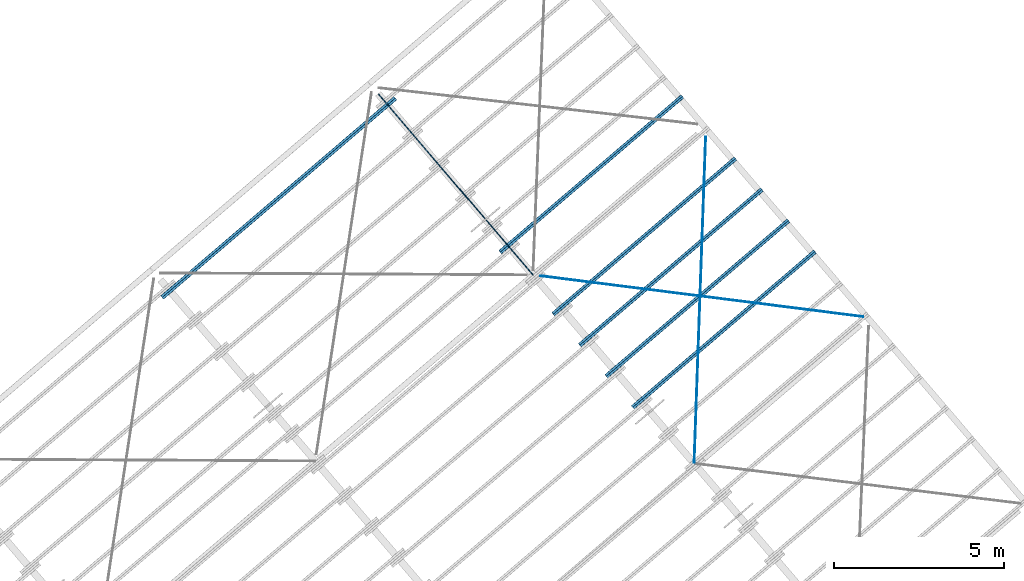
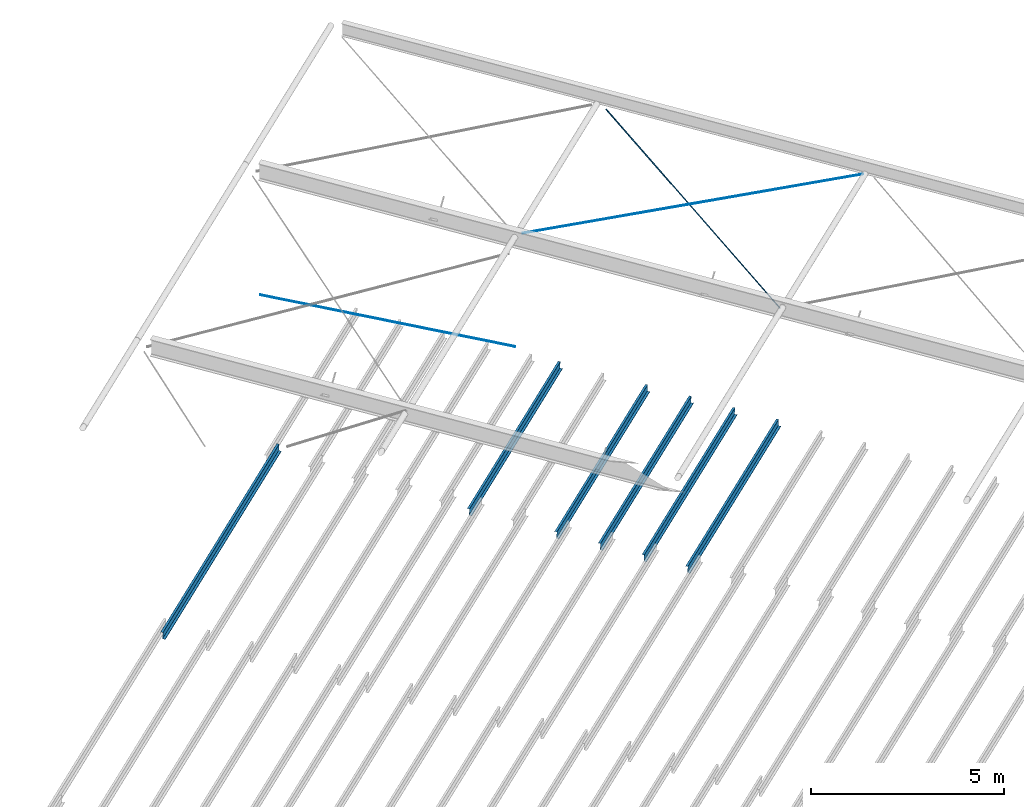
# One storey, part 19 of 25: 9 beams, 2 elements without a shape of their own.
"""IFC2X3 building model written with IfcOpenShell, lengths in millimetres."""

from ifc_helpers import new_model, entity, si_unit, converted_unit, derived_unit, direction, frame, frame_2d, origin, place, context, subcontext, project, spatial, polyline, circle_curve, parameter, trimmed, segment, composite_curve, circle, outline, extrude, material, type_object, element, aggregate, save


model = new_model("IFC2X3")

# Units and contexts
model_context = context("Model", 3, precision=0.01, world=origin(), true_north=direction((6.123031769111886e-17, 1.0)))
body_context = subcontext(model_context, "Body", "Model", "MODEL_VIEW")
ifc_project = project(units=[si_unit("LENGTHUNIT", "METRE", prefix="MILLI"), si_unit("AREAUNIT", "SQUARE_METRE"), si_unit("VOLUMEUNIT", "CUBIC_METRE"), converted_unit("PLANEANGLEUNIT", "DEGREE", entity("IfcRatioMeasure", 0.017453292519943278), si_unit("PLANEANGLEUNIT", "RADIAN"), dimensions=[0, 0, 0, 0, 0, 0, 0]), si_unit("MASSUNIT", "GRAM", prefix="KILO"), derived_unit("MASSDENSITYUNIT", [(si_unit("MASSUNIT", "GRAM", prefix="KILO"), 1), (si_unit("LENGTHUNIT", "METRE"), -3)]), derived_unit("MOMENTOFINERTIAUNIT", [(si_unit("LENGTHUNIT", "METRE"), 4)]), si_unit("TIMEUNIT", "SECOND"), si_unit("FREQUENCYUNIT", "HERTZ"), si_unit("THERMODYNAMICTEMPERATUREUNIT", "DEGREE_CELSIUS"), derived_unit("THERMALTRANSMITTANCEUNIT", [(si_unit("MASSUNIT", "GRAM", prefix="KILO"), 1), (si_unit("THERMODYNAMICTEMPERATUREUNIT", "KELVIN"), -1), (si_unit("TIMEUNIT", "SECOND"), -3)]), derived_unit("VOLUMETRICFLOWRATEUNIT", [(si_unit("LENGTHUNIT", "METRE"), 3), (si_unit("TIMEUNIT", "SECOND"), -1)]), derived_unit("MASSFLOWRATEUNIT", [(si_unit("MASSUNIT", "GRAM", prefix="KILO"), 1), (si_unit("TIMEUNIT", "SECOND"), -1)]), derived_unit("ROTATIONALFREQUENCYUNIT", [(si_unit("TIMEUNIT", "SECOND"), -1)]), si_unit("ELECTRICCURRENTUNIT", "AMPERE"), si_unit("ELECTRICVOLTAGEUNIT", "VOLT"), si_unit("POWERUNIT", "WATT"), si_unit("FORCEUNIT", "NEWTON", prefix="KILO"), si_unit("ILLUMINANCEUNIT", "LUX"), si_unit("LUMINOUSFLUXUNIT", "LUMEN"), si_unit("LUMINOUSINTENSITYUNIT", "CANDELA"), derived_unit("USERDEFINED", [(si_unit("MASSUNIT", "GRAM", prefix="KILO"), -1), (si_unit("LENGTHUNIT", "METRE"), -2), (si_unit("TIMEUNIT", "SECOND"), 3), (si_unit("LUMINOUSFLUXUNIT", "LUMEN"), 1)]), derived_unit("SOUNDPOWERUNIT", [(si_unit("MASSUNIT", "GRAM", prefix="KILO"), 1), (si_unit("LENGTHUNIT", "METRE"), 2), (si_unit("TIMEUNIT", "SECOND"), -3)]), derived_unit("LINEARVELOCITYUNIT", [(si_unit("LENGTHUNIT", "METRE"), 1), (si_unit("TIMEUNIT", "SECOND"), -1)]), si_unit("PRESSUREUNIT", "PASCAL"), derived_unit("USERDEFINED", [(si_unit("LENGTHUNIT", "METRE"), -2), (si_unit("MASSUNIT", "GRAM", prefix="KILO"), 1), (si_unit("TIMEUNIT", "SECOND"), -2)]), derived_unit("LINEARFORCEUNIT", [(si_unit("MASSUNIT", "GRAM", prefix="KILO"), 1), (si_unit("LENGTHUNIT", "METRE"), 1), (si_unit("TIMEUNIT", "SECOND"), -2), (si_unit("LENGTHUNIT", "METRE"), -1)]), derived_unit("PLANARFORCEUNIT", [(si_unit("MASSUNIT", "GRAM", prefix="KILO"), 1), (si_unit("LENGTHUNIT", "METRE"), 1), (si_unit("TIMEUNIT", "SECOND"), -2), (si_unit("LENGTHUNIT", "METRE"), -2)])], contexts=[model_context])

# Site, building, storey
site_placement = place(None, frame((962.4174930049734, -6014.433753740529, 0.0), z_axis=(0.0, 0.0, 1.0), x_axis=(0.7601792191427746, 0.649713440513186, 0.0)))
site = spatial("IfcSite", under=ifc_project, at=site_placement, Name="Default", CompositionType="ELEMENT")
building_placement = place(site_placement, origin())
building = spatial("IfcBuilding", under=site, at=building_placement, CompositionType="ELEMENT")
storey_placement = place(building_placement, frame((0.0, 0.0, 9200.0)))
storey = spatial("IfcBuildingStorey", under=building, at=storey_placement, Name="TOP OF CEILING", CompositionType="ELEMENT", Elevation=9200.000000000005)

# Beams
beam_type_1 = type_object("IfcBeamType", Name="ADSK_AU_Round Bars (AS 3679_1):24ROD", PredefinedType="NOTDEFINED")
beam_1_placement = place(storey_placement, frame((179138.96020471, -11142.80342537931, 2900.0), z_axis=(-0.024651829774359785, -0.02686070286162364, 0.9993351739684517), x_axis=(0.6757149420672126, 0.7362608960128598, 0.036458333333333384)))
element("IfcBeam", 1, at=beam_1_placement, inside=storey, type_object=beam_type_1, Name="ADSK_AU_Round Bars (AS 3679_1):24ROD", ObjectType="ADSK_AU_Round Bars (AS 3679_1):24ROD", context=body_context, shape_type="SweptSolid", body=[
    extrude(circle(Radius=12.000000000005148, at=frame_2d((1.4643925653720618e-12, -8.715350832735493e-12), x_axis=(1.0, 0.0))), frame((24.699999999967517, 0.0, -12.0), z_axis=(1.0, 0.0, 0.0), x_axis=(0.0, -1.0, 0.0)), (0.0, 0.0, 1.0), 9575.300000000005),
])
beam_2_placement = place(storey_placement, frame((185667.08955571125, -11048.079923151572, 2800.0), z_axis=(0.050721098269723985, -0.055789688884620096, 0.9971533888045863), x_axis=(-0.6707811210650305, 0.7378126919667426, 0.0753997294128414)))
element("IfcBeam", 2, at=beam_2_placement, inside=storey, type_object=beam_type_1, Name="ADSK_AU_Round Bars (AS 3679_1):24ROD", ObjectType="ADSK_AU_Round Bars (AS 3679_1):24ROD", context=body_context, shape_type="SweptSolid", body=[
    extrude(circle(Radius=12.00000000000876, at=frame_2d((-3.5178036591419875e-24, -6.478707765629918e-12), x_axis=(1.0, 0.0))), frame((-61.28479184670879, 0.0, -12.0), z_axis=(1.0, 0.0, 0.0), x_axis=(0.0, -1.0, 0.0)), (0.0, 0.0, 1.0), 9570.700000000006),
])
beam_3_placement = place(storey_placement, frame((179138.96020471, -3867.590582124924, 0.0), z_axis=(0.0, 0.0, 1.0), x_axis=(0.0, 1.0, 0.0)))
element("IfcBeam", 3, at=beam_3_placement, inside=storey, type_object=beam_type_1, Name="ADSK_AU_Round Bars (AS 3679_1):24ROD", ObjectType="ADSK_AU_Round Bars (AS 3679_1):24ROD", context=body_context, shape_type="SweptSolid", body=[
    extrude(circle(Radius=11.999999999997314, at=frame_2d((-9.771676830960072e-26, -1.0828671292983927e-12), x_axis=(1.0, 0.0))), frame((0.006249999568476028, 0.0, -12.0), z_axis=(1.0, 0.0, 0.0), x_axis=(0.0, -1.0, 0.0)), (0.0, 0.0, 1.0), 6980.900000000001),
])

# Assembly, beam
assembly_1_placement = place(storey_placement, origin())
assembly_1 = element("IfcElementAssembly", 4, at=assembly_1_placement, inside=storey, Name="Structural Beam System:Structural Beam System 1", ObjectType="Structural Beam System:Structural Beam System 1", AssemblyPlace="NOTDEFINED", PredefinedType="BEAM_GRID")
ifc_material = material(Name="Metal - Light Gauge")
beam_type_2 = type_object("IfcBeamType", Name="ADSK_AU_Light Gauge-Zeds:Z20024", PredefinedType="NOTDEFINED")
beam_4_placement = place(building_placement, frame((179438.96020471, 2700.2090561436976, 4378.8254000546), z_axis=(0.0, 0.0, 1.0), x_axis=(-1.0, 0.0, 0.0)))
beam_4 = element("IfcBeam", 5, at=beam_4_placement, type_object=beam_type_2, material=ifc_material, Name="ADSK_AU_Light Gauge-Zeds:Z20024", ObjectType="ADSK_AU_Light Gauge-Zeds:Z20024", context=body_context, shape_type="SweptSolid", body=[
    extrude(outline(composite_curve([segment(polyline([(99.10000000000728, 1.0299999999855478), (99.09999999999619, -71.6700000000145)]), True, "CONTINUOUS"), segment(trimmed(circle_curve(frame_2d((97.09999999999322, -71.67000000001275), x_axis=(0.0, -1.0)), 2.000000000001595), [parameter(0.0)], [parameter(89.99999999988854)], True, "PARAMETER"), False, "CONTINUOUS"), segment(polyline([(97.09999999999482, -73.67000000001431), (79.49999999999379, -73.67000000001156)]), True, "CONTINUOUS"), segment(polyline([(79.49999999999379, -73.67000000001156), (79.4999999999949, -76.07000000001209)]), True, "CONTINUOUS"), segment(polyline([(79.4999999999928, -76.0700000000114), (97.09999999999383, -76.07000000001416)]), True, "CONTINUOUS"), segment(trimmed(circle_curve(frame_2d((97.09999999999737, -71.67000000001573), x_axis=(1.0, 0.0)), 4.399999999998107), [parameter(269.99999999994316)], [parameter(0.0)], True, "PARAMETER"), True, "CONTINUOUS"), segment(polyline([(101.49999999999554, -71.67000000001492), (101.50000000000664, 1.0299999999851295)]), True, "CONTINUOUS"), segment(trimmed(circle_curve(frame_2d((97.10000000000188, 1.0299999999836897), x_axis=(0.0, 1.0)), 4.4000000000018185), [parameter(270.0000000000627)], [parameter(0.0)], True, "PARAMETER"), True, "CONTINUOUS"), segment(polyline([(97.10000000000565, 5.429999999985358), (-97.09999999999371, 5.430000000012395)]), True, "CONTINUOUS"), segment(trimmed(circle_curve(frame_2d((-97.09999999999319, 7.430000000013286), x_axis=(-1.0, 0.0)), 2.0000000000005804), [parameter(0.0)], [parameter(89.99999999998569)], True, "PARAMETER"), False, "CONTINUOUS"), segment(polyline([(-99.09999999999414, 7.430000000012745), (-99.09999999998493, 66.03000000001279)]), True, "CONTINUOUS"), segment(trimmed(circle_curve(frame_2d((-97.09999999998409, 66.03000000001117), x_axis=(0.0, 1.0)), 2.000000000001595), [parameter(0.0)], [parameter(89.99999999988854)], True, "PARAMETER"), False, "CONTINUOUS"), segment(polyline([(-97.09999999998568, 68.03000000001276), (-79.49999999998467, 68.03000000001)]), True, "CONTINUOUS"), segment(polyline([(-79.49999999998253, 68.03000000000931), (-79.49999999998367, 70.43000000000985)]), True, "CONTINUOUS"), segment(polyline([(-79.49999999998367, 70.43000000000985), (-97.09999999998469, 70.4300000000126)]), True, "CONTINUOUS"), segment(trimmed(circle_curve(frame_2d((-97.09999999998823, 66.03000000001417), x_axis=(-1.0, 0.0)), 4.3999999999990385), [parameter(269.99999999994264)], [parameter(0.0)], True, "PARAMETER"), True, "CONTINUOUS"), segment(polyline([(-101.49999999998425, 66.03000000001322), (-101.49999999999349, 7.430000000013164)]), True, "CONTINUOUS"), segment(trimmed(circle_curve(frame_2d((-97.09999999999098, 7.430000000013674), x_axis=(0.0, -1.0)), 4.400000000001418), [parameter(270.0000000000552)], [parameter(0.0)], True, "PARAMETER"), True, "CONTINUOUS"), segment(polyline([(-97.09999999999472, 3.0300000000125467), (97.10000000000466, 3.029999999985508)]), True, "CONTINUOUS"), segment(trimmed(circle_curve(frame_2d((97.10000000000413, 1.0299999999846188), x_axis=(1.0, 0.0)), 2.0000000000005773), [parameter(0.0)], [parameter(89.99999999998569)], True, "PARAMETER"), False, "CONTINUOUS")], self_intersect=False)), frame((0.0, -1.6635092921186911, -101.6315287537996), z_axis=(-1.0, 0.0, 0.0), x_axis=(0.0, -0.06975647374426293, -0.9975640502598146)), (0.0, 0.0, -1.0), 9000.000000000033),
])
aggregate(assembly_1, [beam_4])

# Assembly, beams
assembly_2_placement = place(storey_placement, origin())
assembly_2 = element("IfcElementAssembly", 6, at=assembly_2_placement, inside=storey, Name="Structural Beam System:Structural Beam System 1", ObjectType="Structural Beam System:Structural Beam System 1", AssemblyPlace="NOTDEFINED", PredefinedType="BEAM_GRID")
beam_type_3 = type_object("IfcBeamType", Name="ADSK_AU_Light Gauge-Zeds:Z20019", PredefinedType="NOTDEFINED")
beam_5_placement = place(building_placement, frame((185873.56020470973, -2731.387956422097, 3999.0111372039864), z_axis=(0.0, 0.0, 1.0), x_axis=(-1.0, 0.0, 0.0)))
beam_5 = element("IfcBeam", 7, at=beam_5_placement, type_object=beam_type_3, material=ifc_material, Name="ADSK_AU_Light Gauge-Zeds:Z20019", ObjectType="ADSK_AU_Light Gauge-Zeds:Z20019", context=body_context, shape_type="SweptSolid", body=[
    extrude(outline(composite_curve([segment(polyline([(99.65000000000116, 1.2799999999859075), (99.6499999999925, -70.42000000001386)]), True, "CONTINUOUS"), segment(trimmed(circle_curve(frame_2d((97.64999999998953, -70.42000000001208), x_axis=(0.0, -1.0)), 2.000000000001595), [parameter(0.0)], [parameter(89.99999999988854)], True, "PARAMETER"), False, "CONTINUOUS"), segment(polyline([(97.64999999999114, -72.42000000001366), (80.04999999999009, -72.4200000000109)]), True, "CONTINUOUS"), segment(polyline([(80.04999999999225, -72.4200000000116), (80.04999999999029, -74.32000000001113)]), True, "CONTINUOUS"), segment(polyline([(80.04999999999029, -74.32000000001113), (97.64999999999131, -74.3200000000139)]), True, "CONTINUOUS"), segment(trimmed(circle_curve(frame_2d((97.64999999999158, -70.4200000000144), x_axis=(1.0, 0.0)), 3.8999999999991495), [parameter(269.999999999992)], [parameter(0.0)], True, "PARAMETER"), True, "CONTINUOUS"), segment(polyline([(101.54999999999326, -70.42000000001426), (101.5500000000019, 1.2799999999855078)]), True, "CONTINUOUS"), segment(trimmed(circle_curve(frame_2d((97.65000000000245, 1.279999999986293), x_axis=(0.0, 1.0)), 3.8999999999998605), [parameter(269.999999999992)], [parameter(0.0)], True, "PARAMETER"), True, "CONTINUOUS"), segment(polyline([(97.65000000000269, 5.179999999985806), (-97.5499999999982, 5.180000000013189)]), True, "CONTINUOUS"), segment(trimmed(circle_curve(frame_2d((-97.54999999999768, 7.18000000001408), x_axis=(-1.0, 0.0)), 2.0000000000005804), [parameter(0.0)], [parameter(89.99999999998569)], True, "PARAMETER"), False, "CONTINUOUS"), segment(polyline([(-99.54999999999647, 7.180000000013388), (-99.54999999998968, 64.78000000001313)]), True, "CONTINUOUS"), segment(trimmed(circle_curve(frame_2d((-97.54999999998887, 64.78000000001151), x_axis=(0.0, 1.0)), 2.000000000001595), [parameter(0.0)], [parameter(89.99999999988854)], True, "PARAMETER"), False, "CONTINUOUS"), segment(polyline([(-97.54999999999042, 66.78000000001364), (-80.449999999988, 66.7800000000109)]), True, "CONTINUOUS"), segment(polyline([(-80.44999999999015, 66.78000000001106), (-80.44999999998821, 68.68000000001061)]), True, "CONTINUOUS"), segment(polyline([(-80.44999999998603, 68.68000000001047), (-97.54999999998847, 68.6800000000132)]), True, "CONTINUOUS"), segment(trimmed(circle_curve(frame_2d((-97.54999999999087, 64.78000000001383), x_axis=(-1.0, 0.0)), 3.89999999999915), [parameter(269.999999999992)], [parameter(0.0)], True, "PARAMETER"), True, "CONTINUOUS"), segment(polyline([(-101.44999999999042, 64.78000000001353), (-101.44999999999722, 7.180000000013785)]), True, "CONTINUOUS"), segment(trimmed(circle_curve(frame_2d((-97.54999999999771, 7.180000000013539), x_axis=(0.0, -1.0)), 3.9000000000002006), [parameter(270.00000000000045)], [parameter(0.0)], True, "PARAMETER"), True, "CONTINUOUS"), segment(polyline([(-97.54999999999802, 3.2800000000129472), (97.65000000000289, 3.279999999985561)]), True, "CONTINUOUS"), segment(trimmed(circle_curve(frame_2d((97.65000000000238, 1.279999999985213), x_axis=(1.0, 0.0)), 2.0000000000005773), [parameter(0.0)], [parameter(89.99999999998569)], True, "PARAMETER"), False, "CONTINUOUS")], self_intersect=False)), frame((0.0, -1.909412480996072, -101.56421143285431), z_axis=(-1.0, 0.0, 0.0), x_axis=(0.0, -0.06975647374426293, -0.9975640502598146)), (0.0, 0.0, -1.0), 7035.000000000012),
])
beam_6_placement = place(building_placement, frame((185873.56020470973, -5125.541677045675, 3831.5956002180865), z_axis=(0.0, 0.0, 1.0), x_axis=(-1.0, 0.0, 0.0)))
beam_6 = element("IfcBeam", 8, at=beam_6_placement, type_object=beam_type_3, material=ifc_material, Name="ADSK_AU_Light Gauge-Zeds:Z20019", ObjectType="ADSK_AU_Light Gauge-Zeds:Z20019", context=body_context, shape_type="SweptSolid", body=[
    extrude(outline(composite_curve([segment(polyline([(99.65000000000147, 1.2799999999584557), (99.64999999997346, -70.4200000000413)]), True, "CONTINUOUS"), segment(trimmed(circle_curve(frame_2d((97.64999999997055, -70.4200000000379), x_axis=(0.0, -1.0)), 2.00000000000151), [parameter(0.0)], [parameter(89.99999999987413)], True, "PARAMETER"), False, "CONTINUOUS"), segment(polyline([(97.64999999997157, -72.42000000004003), (80.04999999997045, -72.4200000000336)]), True, "CONTINUOUS"), segment(polyline([(80.04999999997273, -72.42000000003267), (80.04999999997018, -74.3200000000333)]), True, "CONTINUOUS"), segment(polyline([(80.04999999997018, -74.3200000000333), (97.64999999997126, -74.32000000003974)]), True, "CONTINUOUS"), segment(trimmed(circle_curve(frame_2d((97.64999999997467, -70.42000000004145), x_axis=(1.0, 0.0)), 3.8999999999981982), [parameter(269.9999999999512)], [parameter(0.0)], True, "PARAMETER"), True, "CONTINUOUS"), segment(polyline([(101.54999999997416, -70.42000000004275), (101.55000000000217, 1.2799999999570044)]), True, "CONTINUOUS"), segment(trimmed(circle_curve(frame_2d((97.6500000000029, 1.279999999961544), x_axis=(0.0, 1.0)), 3.899999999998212), [parameter(269.9999999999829)], [parameter(0.0)], True, "PARAMETER"), True, "CONTINUOUS"), segment(polyline([(97.65000000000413, 5.179999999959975), (-97.54999999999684, 5.1800000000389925)]), True, "CONTINUOUS"), segment(trimmed(circle_curve(frame_2d((-97.54999999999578, 7.180000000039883), x_axis=(-1.0, 0.0)), 2.000000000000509), [parameter(0.0)], [parameter(89.99999999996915)], True, "PARAMETER"), False, "CONTINUOUS"), segment(polyline([(-99.5499999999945, 7.180000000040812), (-99.54999999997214, 64.78000000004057)]), True, "CONTINUOUS"), segment(trimmed(circle_curve(frame_2d((-97.5499999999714, 64.78000000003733), x_axis=(0.0, 1.0)), 2.000000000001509), [parameter(0.0)], [parameter(89.99999999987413)], True, "PARAMETER"), False, "CONTINUOUS"), segment(polyline([(-97.54999999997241, 66.78000000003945), (-80.44999999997, 66.78000000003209)]), True, "CONTINUOUS"), segment(polyline([(-80.44999999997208, 66.78000000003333), (-80.44999999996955, 68.68000000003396)]), True, "CONTINUOUS"), segment(polyline([(-80.44999999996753, 68.68000000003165), (-97.54999999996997, 68.680000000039)]), True, "CONTINUOUS"), segment(trimmed(circle_curve(frame_2d((-97.54999999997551, 64.78000000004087), x_axis=(-1.0, 0.0)), 3.8999999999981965), [parameter(269.9999999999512)], [parameter(0.0)], True, "PARAMETER"), True, "CONTINUOUS"), segment(polyline([(-101.44999999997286, 64.78000000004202), (-101.4499999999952, 7.180000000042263)]), True, "CONTINUOUS"), segment(trimmed(circle_curve(frame_2d((-97.54999999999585, 7.180000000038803), x_axis=(0.0, -1.0)), 3.9000000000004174), [parameter(270.000000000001)], [parameter(0.0)], True, "PARAMETER"), True, "CONTINUOUS"), segment(polyline([(-97.54999999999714, 3.2800000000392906), (97.65000000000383, 3.279999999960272)]), True, "CONTINUOUS"), segment(trimmed(circle_curve(frame_2d((97.65000000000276, 1.279999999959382), x_axis=(1.0, 0.0)), 2.000000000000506), [parameter(0.0)], [parameter(89.99999999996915)], True, "PARAMETER"), False, "CONTINUOUS")], self_intersect=False)), frame((0.0, -1.9094124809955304, -101.56421143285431), z_axis=(-1.0, 0.0, 0.0), x_axis=(0.0, -0.06975647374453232, -0.9975640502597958)), (0.0, 0.0, -1.0), 7035.000000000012),
])
beam_7_placement = place(building_placement, frame((185873.56020470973, -6322.618537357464, 3747.8878317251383), z_axis=(0.0, 0.0, 1.0), x_axis=(-1.0, 0.0, 0.0)))
beam_7 = element("IfcBeam", 9, at=beam_7_placement, type_object=beam_type_3, material=ifc_material, Name="ADSK_AU_Light Gauge-Zeds:Z20019", ObjectType="ADSK_AU_Light Gauge-Zeds:Z20019", context=body_context, shape_type="SweptSolid", body=[
    extrude(outline(composite_curve([segment(polyline([(99.64999999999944, 1.2799999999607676), (99.64999999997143, -70.420000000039)]), True, "CONTINUOUS"), segment(trimmed(circle_curve(frame_2d((97.64999999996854, -70.4200000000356), x_axis=(0.0, -1.0)), 2.00000000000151), [parameter(0.0)], [parameter(89.99999999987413)], True, "PARAMETER"), False, "CONTINUOUS"), segment(polyline([(97.64999999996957, -72.42000000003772), (80.04999999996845, -72.4200000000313)]), True, "CONTINUOUS"), segment(polyline([(80.0499999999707, -72.42000000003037), (80.04999999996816, -74.320000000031)]), True, "CONTINUOUS"), segment(polyline([(80.04999999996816, -74.320000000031), (97.64999999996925, -74.32000000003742)]), True, "CONTINUOUS"), segment(trimmed(circle_curve(frame_2d((97.64999999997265, -70.42000000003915), x_axis=(1.0, 0.0)), 3.8999999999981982), [parameter(269.9999999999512)], [parameter(0.0)], True, "PARAMETER"), True, "CONTINUOUS"), segment(polyline([(101.54999999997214, -70.42000000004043), (101.55000000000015, 1.2799999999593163)]), True, "CONTINUOUS"), segment(trimmed(circle_curve(frame_2d((97.65000000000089, 1.279999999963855), x_axis=(0.0, 1.0)), 3.899999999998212), [parameter(269.9999999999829)], [parameter(0.0)], True, "PARAMETER"), True, "CONTINUOUS"), segment(polyline([(97.65000000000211, 5.179999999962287), (-97.54999999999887, 5.180000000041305)]), True, "CONTINUOUS"), segment(trimmed(circle_curve(frame_2d((-97.5499999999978, 7.180000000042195), x_axis=(-1.0, 0.0)), 2.000000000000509), [parameter(0.0)], [parameter(89.99999999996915)], True, "PARAMETER"), False, "CONTINUOUS"), segment(polyline([(-99.54999999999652, 7.180000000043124), (-99.54999999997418, 64.78000000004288)]), True, "CONTINUOUS"), segment(trimmed(circle_curve(frame_2d((-97.54999999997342, 64.78000000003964), x_axis=(0.0, 1.0)), 2.000000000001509), [parameter(0.0)], [parameter(89.99999999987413)], True, "PARAMETER"), False, "CONTINUOUS"), segment(polyline([(-97.54999999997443, 66.78000000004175), (-80.449999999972, 66.7800000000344)]), True, "CONTINUOUS"), segment(polyline([(-80.4499999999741, 66.78000000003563), (-80.44999999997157, 68.68000000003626)]), True, "CONTINUOUS"), segment(polyline([(-80.44999999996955, 68.68000000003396), (-97.54999999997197, 68.6800000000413)]), True, "CONTINUOUS"), segment(trimmed(circle_curve(frame_2d((-97.54999999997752, 64.78000000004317), x_axis=(-1.0, 0.0)), 3.8999999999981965), [parameter(269.9999999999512)], [parameter(0.0)], True, "PARAMETER"), True, "CONTINUOUS"), segment(polyline([(-101.44999999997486, 64.78000000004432), (-101.44999999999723, 7.180000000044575)]), True, "CONTINUOUS"), segment(trimmed(circle_curve(frame_2d((-97.54999999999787, 7.180000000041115), x_axis=(0.0, -1.0)), 3.9000000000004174), [parameter(270.000000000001)], [parameter(0.0)], True, "PARAMETER"), True, "CONTINUOUS"), segment(polyline([(-97.54999999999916, 3.280000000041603), (97.65000000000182, 3.2799999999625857)]), True, "CONTINUOUS"), segment(trimmed(circle_curve(frame_2d((97.65000000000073, 1.2799999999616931), x_axis=(1.0, 0.0)), 2.000000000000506), [parameter(0.0)], [parameter(89.99999999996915)], True, "PARAMETER"), False, "CONTINUOUS")], self_intersect=False)), frame((0.0, -1.9094124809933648, -101.56421143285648), z_axis=(-1.0, 0.0, 0.0), x_axis=(0.0, -0.06975647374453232, -0.9975640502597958)), (0.0, 0.0, -1.0), 7035.000000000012),
])
beam_8_placement = place(building_placement, frame((185873.56020470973, -7519.695397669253, 3664.1800632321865), z_axis=(0.0, 0.0, 1.0), x_axis=(-1.0, 0.0, 0.0)))
beam_8 = element("IfcBeam", 10, at=beam_8_placement, type_object=beam_type_3, material=ifc_material, Name="ADSK_AU_Light Gauge-Zeds:Z20019", ObjectType="ADSK_AU_Light Gauge-Zeds:Z20019", context=body_context, shape_type="SweptSolid", body=[
    extrude(outline(composite_curve([segment(polyline([(99.65000000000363, 1.2799999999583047), (99.64999999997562, -70.42000000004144)]), True, "CONTINUOUS"), segment(trimmed(circle_curve(frame_2d((97.6499999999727, -70.42000000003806), x_axis=(0.0, -1.0)), 2.00000000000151), [parameter(0.0)], [parameter(89.99999999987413)], True, "PARAMETER"), False, "CONTINUOUS"), segment(polyline([(97.64999999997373, -72.42000000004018), (80.04999999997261, -72.42000000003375)]), True, "CONTINUOUS"), segment(polyline([(80.04999999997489, -72.42000000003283), (80.04999999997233, -74.32000000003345)]), True, "CONTINUOUS"), segment(polyline([(80.04999999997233, -74.32000000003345), (97.64999999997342, -74.32000000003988)]), True, "CONTINUOUS"), segment(trimmed(circle_curve(frame_2d((97.64999999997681, -70.4200000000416), x_axis=(1.0, 0.0)), 3.8999999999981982), [parameter(269.9999999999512)], [parameter(0.0)], True, "PARAMETER"), True, "CONTINUOUS"), segment(polyline([(101.54999999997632, -70.42000000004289), (101.55000000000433, 1.2799999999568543)]), True, "CONTINUOUS"), segment(trimmed(circle_curve(frame_2d((97.65000000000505, 1.279999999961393), x_axis=(0.0, 1.0)), 3.899999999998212), [parameter(269.9999999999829)], [parameter(0.0)], True, "PARAMETER"), True, "CONTINUOUS"), segment(polyline([(97.65000000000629, 5.179999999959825), (-97.54999999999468, 5.180000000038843)]), True, "CONTINUOUS"), segment(trimmed(circle_curve(frame_2d((-97.54999999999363, 7.180000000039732), x_axis=(-1.0, 0.0)), 2.000000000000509), [parameter(0.0)], [parameter(89.99999999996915)], True, "PARAMETER"), False, "CONTINUOUS"), segment(polyline([(-99.54999999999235, 7.180000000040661), (-99.54999999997, 64.78000000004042)]), True, "CONTINUOUS"), segment(trimmed(circle_curve(frame_2d((-97.54999999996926, 64.78000000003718), x_axis=(0.0, 1.0)), 2.000000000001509), [parameter(0.0)], [parameter(89.99999999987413)], True, "PARAMETER"), False, "CONTINUOUS"), segment(polyline([(-97.54999999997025, 66.7800000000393), (-80.44999999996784, 66.78000000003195)]), True, "CONTINUOUS"), segment(polyline([(-80.44999999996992, 66.78000000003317), (-80.44999999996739, 68.6800000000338)]), True, "CONTINUOUS"), segment(polyline([(-80.44999999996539, 68.6800000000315), (-97.54999999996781, 68.68000000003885)]), True, "CONTINUOUS"), segment(trimmed(circle_curve(frame_2d((-97.54999999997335, 64.78000000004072), x_axis=(-1.0, 0.0)), 3.8999999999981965), [parameter(269.9999999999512)], [parameter(0.0)], True, "PARAMETER"), True, "CONTINUOUS"), segment(polyline([(-101.4499999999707, 64.78000000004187), (-101.44999999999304, 7.180000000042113)]), True, "CONTINUOUS"), segment(trimmed(circle_curve(frame_2d((-97.5499999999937, 7.180000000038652), x_axis=(0.0, -1.0)), 3.9000000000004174), [parameter(270.000000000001)], [parameter(0.0)], True, "PARAMETER"), True, "CONTINUOUS"), segment(polyline([(-97.54999999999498, 3.2800000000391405), (97.65000000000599, 3.279999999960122)]), True, "CONTINUOUS"), segment(trimmed(circle_curve(frame_2d((97.65000000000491, 1.279999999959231), x_axis=(1.0, 0.0)), 2.000000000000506), [parameter(0.0)], [parameter(89.99999999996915)], True, "PARAMETER"), False, "CONTINUOUS")], self_intersect=False)), frame((0.0, -1.9094124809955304, -101.56421143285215), z_axis=(-1.0, 0.0, 0.0), x_axis=(0.0, -0.06975647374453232, -0.9975640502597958)), (0.0, 0.0, -1.0), 7035.000000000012),
])
beam_9_placement = place(building_placement, frame((185873.56020470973, -8716.772257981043, 3580.4722947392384), z_axis=(0.0, 0.0, 1.0), x_axis=(-1.0, 0.0, 0.0)))
beam_9 = element("IfcBeam", 11, at=beam_9_placement, type_object=beam_type_3, material=ifc_material, Name="ADSK_AU_Light Gauge-Zeds:Z20019", ObjectType="ADSK_AU_Light Gauge-Zeds:Z20019", context=body_context, shape_type="SweptSolid", body=[
    extrude(outline(composite_curve([segment(polyline([(99.64999999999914, 1.2799999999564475), (99.64999999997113, -70.4200000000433)]), True, "CONTINUOUS"), segment(trimmed(circle_curve(frame_2d((97.64999999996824, -70.4200000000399), x_axis=(0.0, -1.0)), 2.00000000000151), [parameter(0.0)], [parameter(89.99999999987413)], True, "PARAMETER"), False, "CONTINUOUS"), segment(polyline([(97.64999999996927, -72.42000000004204), (80.04999999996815, -72.42000000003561)]), True, "CONTINUOUS"), segment(polyline([(80.0499999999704, -72.42000000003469), (80.04999999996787, -74.32000000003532)]), True, "CONTINUOUS"), segment(polyline([(80.04999999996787, -74.32000000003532), (97.64999999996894, -74.32000000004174)]), True, "CONTINUOUS"), segment(trimmed(circle_curve(frame_2d((97.64999999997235, -70.42000000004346), x_axis=(1.0, 0.0)), 3.8999999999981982), [parameter(269.9999999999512)], [parameter(0.0)], True, "PARAMETER"), True, "CONTINUOUS"), segment(polyline([(101.54999999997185, -70.42000000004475), (101.54999999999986, 1.2799999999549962)]), True, "CONTINUOUS"), segment(trimmed(circle_curve(frame_2d((97.65000000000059, 1.2799999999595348), x_axis=(0.0, 1.0)), 3.899999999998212), [parameter(269.9999999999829)], [parameter(0.0)], True, "PARAMETER"), True, "CONTINUOUS"), segment(polyline([(97.65000000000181, 5.179999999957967), (-97.54999999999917, 5.180000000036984)]), True, "CONTINUOUS"), segment(trimmed(circle_curve(frame_2d((-97.5499999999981, 7.180000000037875), x_axis=(-1.0, 0.0)), 2.000000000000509), [parameter(0.0)], [parameter(89.99999999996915)], True, "PARAMETER"), False, "CONTINUOUS"), segment(polyline([(-99.54999999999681, 7.180000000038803), (-99.54999999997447, 64.78000000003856)]), True, "CONTINUOUS"), segment(trimmed(circle_curve(frame_2d((-97.54999999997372, 64.78000000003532), x_axis=(0.0, 1.0)), 2.000000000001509), [parameter(0.0)], [parameter(89.99999999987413)], True, "PARAMETER"), False, "CONTINUOUS"), segment(polyline([(-97.54999999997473, 66.78000000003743), (-80.44999999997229, 66.78000000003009)]), True, "CONTINUOUS"), segment(polyline([(-80.4499999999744, 66.78000000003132), (-80.44999999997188, 68.68000000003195)]), True, "CONTINUOUS"), segment(polyline([(-80.44999999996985, 68.68000000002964), (-97.54999999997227, 68.68000000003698)]), True, "CONTINUOUS"), segment(trimmed(circle_curve(frame_2d((-97.54999999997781, 64.78000000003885), x_axis=(-1.0, 0.0)), 3.8999999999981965), [parameter(269.9999999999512)], [parameter(0.0)], True, "PARAMETER"), True, "CONTINUOUS"), segment(polyline([(-101.44999999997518, 64.78000000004), (-101.44999999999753, 7.180000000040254)]), True, "CONTINUOUS"), segment(trimmed(circle_curve(frame_2d((-97.54999999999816, 7.180000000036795), x_axis=(0.0, -1.0)), 3.9000000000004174), [parameter(270.000000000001)], [parameter(0.0)], True, "PARAMETER"), True, "CONTINUOUS"), segment(polyline([(-97.54999999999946, 3.2800000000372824), (97.65000000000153, 3.279999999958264)]), True, "CONTINUOUS"), segment(trimmed(circle_curve(frame_2d((97.65000000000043, 1.279999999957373), x_axis=(1.0, 0.0)), 2.000000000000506), [parameter(0.0)], [parameter(89.99999999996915)], True, "PARAMETER"), False, "CONTINUOUS")], self_intersect=False)), frame((0.0, -1.9094124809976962, -101.56421143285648), z_axis=(-1.0, 0.0, 0.0), x_axis=(0.0, -0.06975647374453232, -0.9975640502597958)), (0.0, 0.0, -1.0), 7035.000000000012),
])
aggregate(assembly_2, [beam_5, beam_6, beam_7, beam_8, beam_9])

save(model, "model.ifc")
